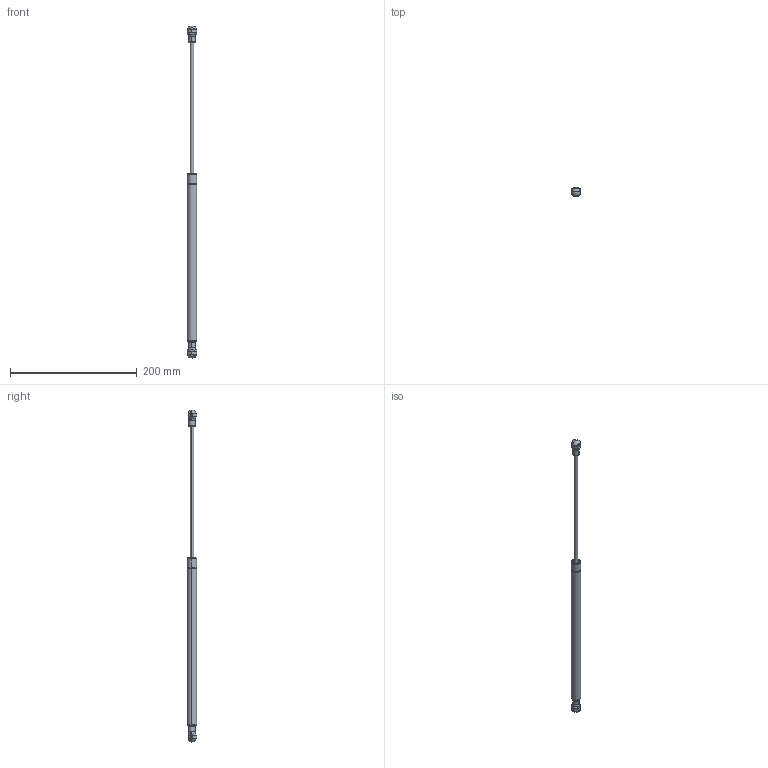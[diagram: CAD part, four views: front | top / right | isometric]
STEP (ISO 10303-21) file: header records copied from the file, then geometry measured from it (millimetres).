
FILE_DESCRIPTION (( 'STEP AP214' ), '1' );
FILE_NAME ('GS06-0800PE10.STEP', '2011-03-23T19:39:39', ( 'user' ), ( '' ), 'SwSTEP 2.0', 'SolidWorks 2011', '' );
FILE_SCHEMA (( 'AUTOMOTIVE_DESIGN' ));
Length unit declared in the file: inch
Products named in the file (5): GS06-0800PE10; socket; GS06-0800PE10-TUBE; GS06-0800PE10-SHAFT; GS06-0800PE10-NC
Assembly tree (5 placements, depth 3):
  GS06-0800PE10
    socket  x2
    GS06-0800PE10-NC
      GS06-0800PE10-SHAFT
      GS06-0800PE10-TUBE
Bounding box: 15.5 x 15.3 x 524.5 mm (x, y, z)
Volume: 51130.5 mm3; surface area: 24519 mm2
Topology: 4 solids, 4 shells, 185 faces, 508 edges, 334 vertices
Faces by surface type: plane 77, cylinder 68, torus 20, sphere 16, cone 4
Entity records: 4746 total; most frequent: CARTESIAN_POINT 898, DIRECTION 604, ORIENTED_EDGE 556, EDGE_CURVE 278, AXIS2_PLACEMENT_3D 250, VERTEX_POINT 181, CIRCLE 134, EDGE_LOOP 113
